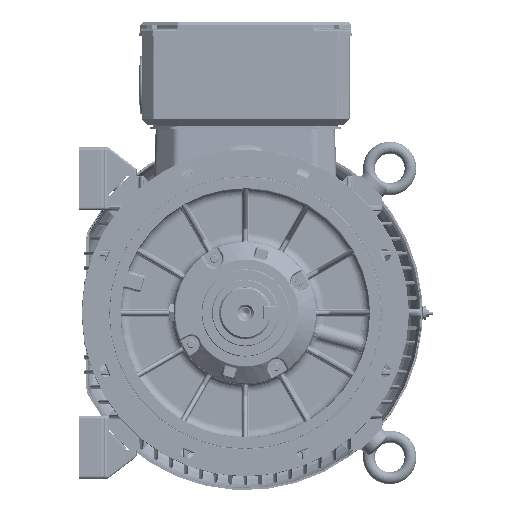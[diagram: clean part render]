
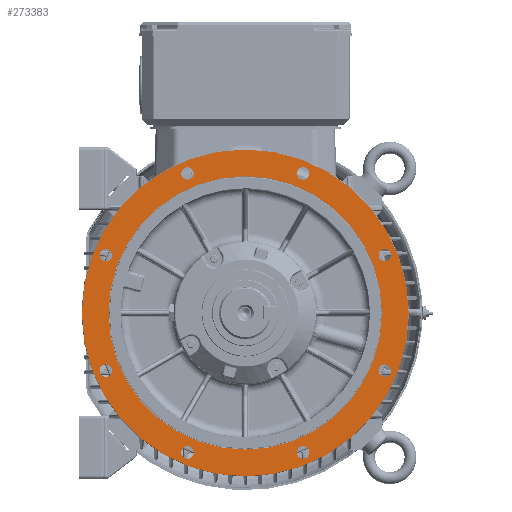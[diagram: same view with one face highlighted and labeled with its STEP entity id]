
A CAD part, front view. The second image highlights one B-rep face of the part: STEP entity #273383.
In plain terms, the highlighted planar face has unit normal (0, -1, 0).
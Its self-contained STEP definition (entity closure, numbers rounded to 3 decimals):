
#11021=CIRCLE('',#286292,275.);
#11696=CIRCLE('',#287439,230.);
#11697=CIRCLE('',#287440,10.5);
#11698=CIRCLE('',#287441,10.5);
#11699=CIRCLE('',#287442,10.5);
#11700=CIRCLE('',#287443,10.5);
#11701=CIRCLE('',#287444,10.5);
#11702=CIRCLE('',#287445,10.5);
#11703=CIRCLE('',#287446,10.5);
#11704=CIRCLE('',#287447,10.5);
#66171=ORIENTED_EDGE('',*,*,#114472,.T.);
#66172=ORIENTED_EDGE('',*,*,#115857,.F.);
#66173=ORIENTED_EDGE('',*,*,#115858,.F.);
#66174=ORIENTED_EDGE('',*,*,#115859,.F.);
#66175=ORIENTED_EDGE('',*,*,#115860,.F.);
#66176=ORIENTED_EDGE('',*,*,#115861,.F.);
#66177=ORIENTED_EDGE('',*,*,#115862,.F.);
#66178=ORIENTED_EDGE('',*,*,#115863,.F.);
#66179=ORIENTED_EDGE('',*,*,#115864,.F.);
#66180=ORIENTED_EDGE('',*,*,#115865,.F.);
#114472=EDGE_CURVE('',#140856,#140856,#11021,.T.);
#115857=EDGE_CURVE('',#141498,#141498,#11696,.T.);
#115858=EDGE_CURVE('',#141499,#141499,#11697,.T.);
#115859=EDGE_CURVE('',#141500,#141500,#11698,.T.);
#115860=EDGE_CURVE('',#141501,#141501,#11699,.T.);
#115861=EDGE_CURVE('',#141502,#141502,#11700,.T.);
#115862=EDGE_CURVE('',#141503,#141503,#11701,.T.);
#115863=EDGE_CURVE('',#141504,#141504,#11702,.T.);
#115864=EDGE_CURVE('',#141505,#141505,#11703,.T.);
#115865=EDGE_CURVE('',#141506,#141506,#11704,.T.);
#140856=VERTEX_POINT('',#384361);
#141498=VERTEX_POINT('',#402228);
#141499=VERTEX_POINT('',#402230);
#141500=VERTEX_POINT('',#402232);
#141501=VERTEX_POINT('',#402234);
#141502=VERTEX_POINT('',#402236);
#141503=VERTEX_POINT('',#402238);
#141504=VERTEX_POINT('',#402240);
#141505=VERTEX_POINT('',#402242);
#141506=VERTEX_POINT('',#402244);
#158651=EDGE_LOOP('',(#66171));
#158652=EDGE_LOOP('',(#66172));
#158653=EDGE_LOOP('',(#66173));
#158654=EDGE_LOOP('',(#66174));
#158655=EDGE_LOOP('',(#66175));
#158656=EDGE_LOOP('',(#66176));
#158657=EDGE_LOOP('',(#66177));
#158658=EDGE_LOOP('',(#66178));
#158659=EDGE_LOOP('',(#66179));
#158660=EDGE_LOOP('',(#66180));
#173168=FACE_BOUND('',#158651,.T.);
#173169=FACE_BOUND('',#158652,.T.);
#173170=FACE_BOUND('',#158653,.T.);
#173171=FACE_BOUND('',#158654,.T.);
#173172=FACE_BOUND('',#158655,.T.);
#173173=FACE_BOUND('',#158656,.T.);
#173174=FACE_BOUND('',#158657,.T.);
#173175=FACE_BOUND('',#158658,.T.);
#173176=FACE_BOUND('',#158659,.T.);
#173177=FACE_BOUND('',#158660,.T.);
#185290=PLANE('',#287438);
#273383=ADVANCED_FACE('',(#173168,#173169,#173170,#173171,#173172,#173173,
#173174,#173175,#173176,#173177),#185290,.F.);
#286292=AXIS2_PLACEMENT_3D('',#384360,#311845,#311846);
#287438=AXIS2_PLACEMENT_3D('',#402226,#314467,#314468);
#287439=AXIS2_PLACEMENT_3D('',#402227,#314469,#314470);
#287440=AXIS2_PLACEMENT_3D('',#402229,#314471,#314472);
#287441=AXIS2_PLACEMENT_3D('',#402231,#314473,#314474);
#287442=AXIS2_PLACEMENT_3D('',#402233,#314475,#314476);
#287443=AXIS2_PLACEMENT_3D('',#402235,#314477,#314478);
#287444=AXIS2_PLACEMENT_3D('',#402237,#314479,#314480);
#287445=AXIS2_PLACEMENT_3D('',#402239,#314481,#314482);
#287446=AXIS2_PLACEMENT_3D('',#402241,#314483,#314484);
#287447=AXIS2_PLACEMENT_3D('',#402243,#314485,#314486);
#311845=DIRECTION('',(0.,-1.,0.));
#311846=DIRECTION('',(-1.,0.,0.));
#314467=DIRECTION('',(0.,1.,0.));
#314468=DIRECTION('',(1.,0.,0.));
#314469=DIRECTION('',(0.,-1.,0.));
#314470=DIRECTION('',(-1.,0.,0.));
#314471=DIRECTION('',(0.,-1.,0.));
#314472=DIRECTION('',(0.,0.,-1.));
#314473=DIRECTION('',(0.,-1.,0.));
#314474=DIRECTION('',(0.,0.,-1.));
#314475=DIRECTION('',(0.,-1.,0.));
#314476=DIRECTION('',(0.,0.,-1.));
#314477=DIRECTION('',(0.,-1.,0.));
#314478=DIRECTION('',(0.,0.,-1.));
#314479=DIRECTION('',(0.,-1.,0.));
#314480=DIRECTION('',(0.,0.,-1.));
#314481=DIRECTION('',(0.,-1.,0.));
#314482=DIRECTION('',(0.,0.,-1.));
#314483=DIRECTION('',(0.,-1.,0.));
#314484=DIRECTION('',(0.,0.,-1.));
#314485=DIRECTION('',(0.,-1.,0.));
#314486=DIRECTION('',(0.,0.,-1.));
#384360=CARTESIAN_POINT('',(0.,-105.,0.));
#384361=CARTESIAN_POINT('',(-275.,-105.,0.));
#402226=CARTESIAN_POINT('',(230.,-105.,0.));
#402227=CARTESIAN_POINT('',(0.,-105.,0.));
#402228=CARTESIAN_POINT('',(-230.,-105.,0.));
#402229=CARTESIAN_POINT('',(234.665,-105.,-97.202));
#402230=CARTESIAN_POINT('',(234.665,-105.,-107.702));
#402231=CARTESIAN_POINT('',(234.665,-105.,97.202));
#402232=CARTESIAN_POINT('',(234.665,-105.,86.702));
#402233=CARTESIAN_POINT('',(97.202,-105.,234.665));
#402234=CARTESIAN_POINT('',(97.202,-105.,224.165));
#402235=CARTESIAN_POINT('',(-97.202,-105.,234.665));
#402236=CARTESIAN_POINT('',(-97.202,-105.,224.165));
#402237=CARTESIAN_POINT('',(-234.665,-105.,97.202));
#402238=CARTESIAN_POINT('',(-234.665,-105.,86.702));
#402239=CARTESIAN_POINT('',(-234.665,-105.,-97.202));
#402240=CARTESIAN_POINT('',(-234.665,-105.,-107.702));
#402241=CARTESIAN_POINT('',(-97.202,-105.,-234.665));
#402242=CARTESIAN_POINT('',(-97.202,-105.,-245.165));
#402243=CARTESIAN_POINT('',(97.202,-105.,-234.665));
#402244=CARTESIAN_POINT('',(97.202,-105.,-245.165));
